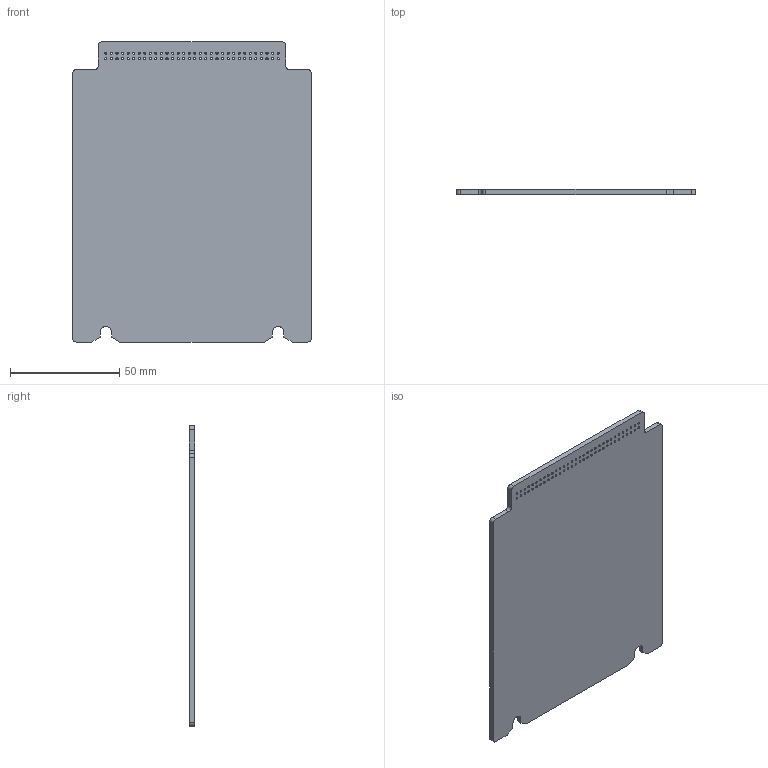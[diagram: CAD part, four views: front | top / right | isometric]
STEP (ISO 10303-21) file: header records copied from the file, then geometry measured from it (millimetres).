
FILE_DESCRIPTION(/* description */ (''),/* implementation_level */ '2;1');
FILE_NAME(/* name */ 'Single CB Connector Board.step',/* time_stamp */ '2023-11-06T12:33:15-05:00',/* author */ (''),/* organization */ (''),/* preprocessor_version */ 'ST-DEVELOPER v20',/* originating_system */ 'Autodesk Translation Framework v12.14.0.127',/* authorisation */ '');
FILE_SCHEMA (('AUTOMOTIVE_DESIGN { 1 0 10303 214 3 1 1 }'));
Length unit declared in the file: inch
Products named in the file (2): Single CB Connector Board; Single CB Board
Assembly tree (1 placements, depth 2):
  Single CB Connector Board
    Single CB Board
Bounding box: 109.22 x 2.36 x 137.16 mm (x, y, z)
Volume: 34362.1 mm3; surface area: 30756.7 mm2
Topology: 1 solids, 1 shells, 94 faces, 276 edges, 184 vertices
Faces by surface type: cylinder 74, plane 20
Full cylindrical faces by diameter (mm): 0.991 x64
Entity records: 3526 total; most frequent: DIRECTION 618, CARTESIAN_POINT 557, ORIENTED_EDGE 552, EDGE_CURVE 276, AXIS2_PLACEMENT_3D 245, EDGE_LOOP 222, VERTEX_POINT 184, CIRCLE 148
